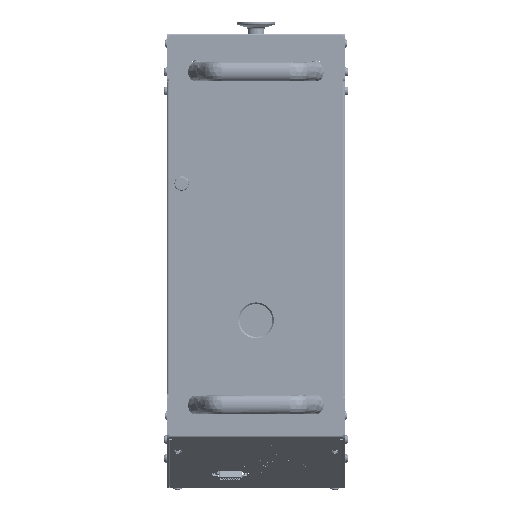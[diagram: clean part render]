
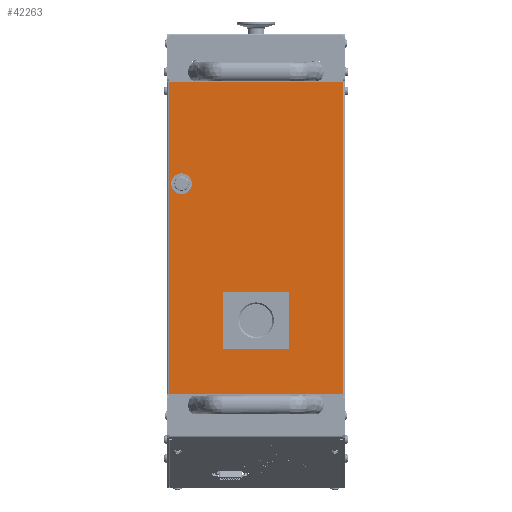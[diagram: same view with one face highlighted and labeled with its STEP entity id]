
A CAD part, top view. The second image highlights one B-rep face of the part: STEP entity #42263.
In plain terms, the highlighted planar face has unit normal (0, 0, 1).
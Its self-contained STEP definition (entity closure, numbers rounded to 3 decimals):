
#2814=FACE_BOUND('',#7975,.T.);
#2815=FACE_BOUND('',#7976,.T.);
#4790=FACE_OUTER_BOUND('',#7974,.T.);
#7974=EDGE_LOOP('',(#34877,#34878,#34879,#34880));
#7975=EDGE_LOOP('',(#34881,#34882,#34883,#34884));
#7976=EDGE_LOOP('',(#34885));
#9607=CIRCLE('',#46134,11.);
#12937=LINE('',#73973,#16684);
#12938=LINE('',#73975,#16685);
#12939=LINE('',#73977,#16686);
#12940=LINE('',#73978,#16687);
#12941=LINE('',#73981,#16688);
#12942=LINE('',#73983,#16689);
#12943=LINE('',#73985,#16690);
#12944=LINE('',#73986,#16691);
#16684=VECTOR('',#55590,1000.);
#16685=VECTOR('',#55591,1000.);
#16686=VECTOR('',#55592,1000.);
#16687=VECTOR('',#55593,1000.);
#16688=VECTOR('',#55594,1000.);
#16689=VECTOR('',#55595,1000.);
#16690=VECTOR('',#55596,1000.);
#16691=VECTOR('',#55597,1000.);
#20376=VERTEX_POINT('',#73971);
#20377=VERTEX_POINT('',#73972);
#20378=VERTEX_POINT('',#73974);
#20379=VERTEX_POINT('',#73976);
#20380=VERTEX_POINT('',#73979);
#20381=VERTEX_POINT('',#73980);
#20382=VERTEX_POINT('',#73982);
#20383=VERTEX_POINT('',#73984);
#20384=VERTEX_POINT('',#73987);
#25389=EDGE_CURVE('',#20376,#20377,#12937,.T.);
#25390=EDGE_CURVE('',#20377,#20378,#12938,.T.);
#25391=EDGE_CURVE('',#20378,#20379,#12939,.T.);
#25392=EDGE_CURVE('',#20376,#20379,#12940,.T.);
#25393=EDGE_CURVE('',#20380,#20381,#12941,.T.);
#25394=EDGE_CURVE('',#20381,#20382,#12942,.T.);
#25395=EDGE_CURVE('',#20382,#20383,#12943,.T.);
#25396=EDGE_CURVE('',#20383,#20380,#12944,.T.);
#25397=EDGE_CURVE('',#20384,#20384,#9607,.T.);
#34877=ORIENTED_EDGE('',*,*,#25389,.T.);
#34878=ORIENTED_EDGE('',*,*,#25390,.T.);
#34879=ORIENTED_EDGE('',*,*,#25391,.T.);
#34880=ORIENTED_EDGE('',*,*,#25392,.F.);
#34881=ORIENTED_EDGE('',*,*,#25393,.T.);
#34882=ORIENTED_EDGE('',*,*,#25394,.T.);
#34883=ORIENTED_EDGE('',*,*,#25395,.T.);
#34884=ORIENTED_EDGE('',*,*,#25396,.T.);
#34885=ORIENTED_EDGE('',*,*,#25397,.F.);
#38734=PLANE('',#46133);
#42263=ADVANCED_FACE('',(#4790,#2814,#2815),#38734,.T.);
#46133=AXIS2_PLACEMENT_3D('',#73970,#55588,#55589);
#46134=AXIS2_PLACEMENT_3D('',#73988,#55598,#55599);
#55588=DIRECTION('center_axis',(0.,0.,1.));
#55589=DIRECTION('ref_axis',(0.,-1.,0.));
#55590=DIRECTION('',(0.,-1.,0.));
#55591=DIRECTION('',(1.,0.,0.));
#55592=DIRECTION('',(0.,1.,0.));
#55593=DIRECTION('',(1.,0.,0.));
#55594=DIRECTION('',(-1.,0.,0.));
#55595=DIRECTION('',(0.,1.,0.));
#55596=DIRECTION('',(1.,0.,0.));
#55597=DIRECTION('',(0.,-1.,0.));
#55598=DIRECTION('center_axis',(0.,0.,1.));
#55599=DIRECTION('ref_axis',(1.,0.,0.));
#73970=CARTESIAN_POINT('Origin',(-140.75,-92.911,130.25));
#73971=CARTESIAN_POINT('',(-140.75,92.,130.25));
#73972=CARTESIAN_POINT('',(-140.75,-92.,130.25));
#73973=CARTESIAN_POINT('',(-140.75,-92.911,130.25));
#73974=CARTESIAN_POINT('',(190.75,-92.,130.25));
#73975=CARTESIAN_POINT('',(-140.75,-92.,130.25));
#73976=CARTESIAN_POINT('',(190.75,92.,130.25));
#73977=CARTESIAN_POINT('',(190.75,-92.911,130.25));
#73978=CARTESIAN_POINT('',(-140.75,92.,130.25));
#73979=CARTESIAN_POINT('',(-32.25,-35.,130.25));
#73980=CARTESIAN_POINT('',(-92.25,-35.,130.25));
#73981=CARTESIAN_POINT('',(-32.25,-35.,130.25));
#73982=CARTESIAN_POINT('',(-92.25,35.,130.25));
#73983=CARTESIAN_POINT('',(-92.25,-35.,130.25));
#73984=CARTESIAN_POINT('',(-32.25,35.,130.25));
#73985=CARTESIAN_POINT('',(-92.25,35.,130.25));
#73986=CARTESIAN_POINT('',(-32.25,35.,130.25));
#73987=CARTESIAN_POINT('',(93.75,79.,130.25));
#73988=CARTESIAN_POINT('Origin',(82.75,79.,130.25));
